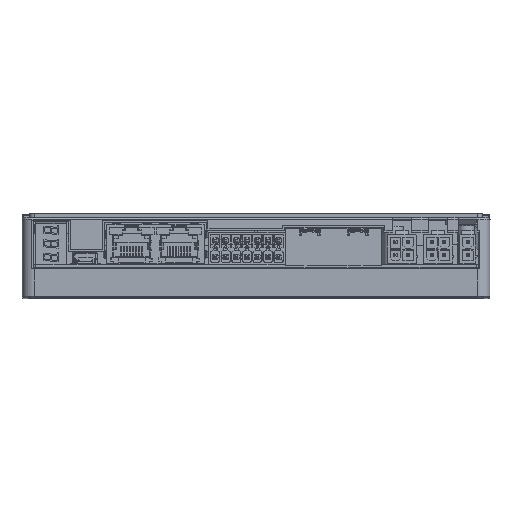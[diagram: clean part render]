
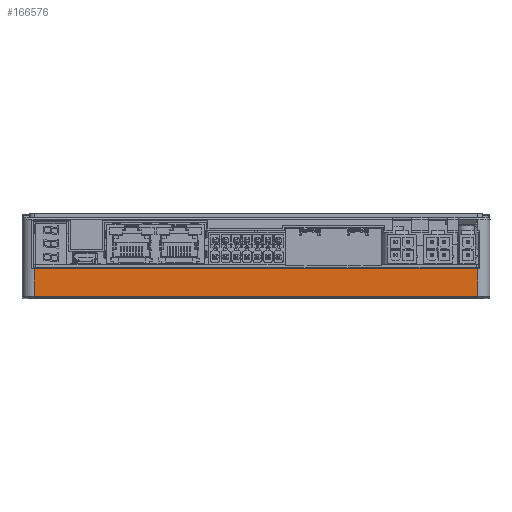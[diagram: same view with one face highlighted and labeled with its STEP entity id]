
A CAD part, top view. The second image highlights one B-rep face of the part: STEP entity #166576.
In plain terms, the highlighted planar face has unit normal (0, 0, 1).
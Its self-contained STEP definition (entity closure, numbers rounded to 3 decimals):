
#153776=DIRECTION('',(0.,1.,0.));
#153777=VECTOR('',#153776,9.2);
#153778=CARTESIAN_POINT('',(73.5,-8.5,
2.5));
#153779=LINE('',#153778,#153777);
#155547=DIRECTION('',(0.,-1.,0.));
#155548=VECTOR('',#155547,9.2);
#155549=CARTESIAN_POINT('',(-73.5,0.7,2.5));
#155550=LINE('',#155549,#155548);
#155563=DIRECTION('',(1.,0.,0.));
#155564=VECTOR('',#155563,147.);
#155565=CARTESIAN_POINT('',(-73.5,0.7,2.5));
#155566=LINE('',#155565,#155564);
#155567=DIRECTION('',(1.,0.,0.));
#155568=VECTOR('',#155567,147.);
#155569=CARTESIAN_POINT('',(-73.5,-8.5,
2.5));
#155570=LINE('',#155569,#155568);
#161100=CARTESIAN_POINT('',(73.5,-8.5,
2.5));
#161101=VERTEX_POINT('',#161100);
#161102=CARTESIAN_POINT('',(73.5,0.7,2.5));
#161103=VERTEX_POINT('',#161102);
#161112=CARTESIAN_POINT('',(-73.5,0.7,2.5));
#161113=VERTEX_POINT('',#161112);
#161831=CARTESIAN_POINT('',(-73.5,-8.5,
2.5));
#161832=VERTEX_POINT('',#161831);
#166564=CARTESIAN_POINT('',(-77.5,-15.,2.5));
#166565=DIRECTION('',(0.,0.,1.));
#166566=DIRECTION('',(0.,1.,0.));
#166567=AXIS2_PLACEMENT_3D('',#166564,#166565,#166566);
#166568=PLANE('',#166567);
#166569=ORIENTED_EDGE('',*,*,#164578,.T.);
#166570=ORIENTED_EDGE('',*,*,#164531,.F.);
#166572=ORIENTED_EDGE('',*,*,#166571,.F.);
#166573=ORIENTED_EDGE('',*,*,#166549,.F.);
#166574=EDGE_LOOP('',(#166569,#166570,#166572,#166573));
#166575=FACE_OUTER_BOUND('',#166574,.F.);
#164531=EDGE_CURVE('',#161101,#161103,#153779,.T.);
#164578=EDGE_CURVE('',#161113,#161103,#155566,.T.);
#166549=EDGE_CURVE('',#161113,#161832,#155550,.T.);
#166571=EDGE_CURVE('',#161832,#161101,#155570,.T.);
#166576=ADVANCED_FACE('',(#166575),#166568,.T.);
